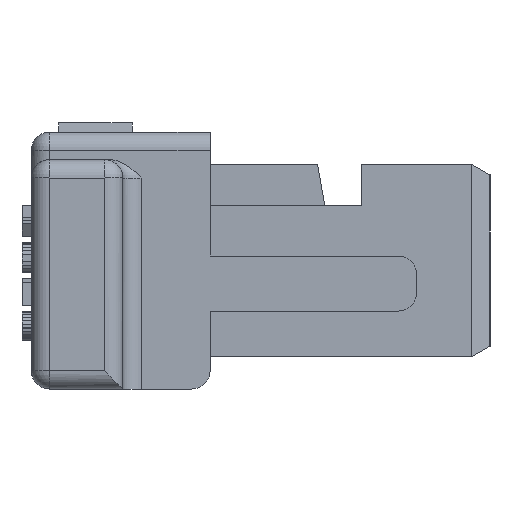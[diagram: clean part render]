
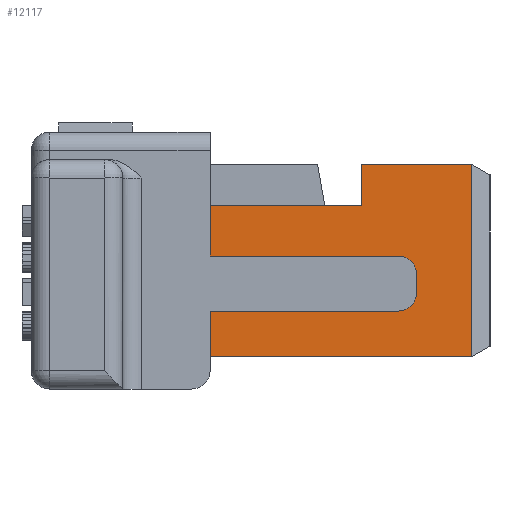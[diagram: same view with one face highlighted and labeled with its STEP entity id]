
A CAD part, left-side view. The second image highlights one B-rep face of the part: STEP entity #12117.
In plain terms, the highlighted planar face has unit normal (-1, 0, 0).
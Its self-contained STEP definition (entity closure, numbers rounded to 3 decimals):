
#1097=DIRECTION('',(0.,0.,1.));
#1098=VECTOR('',#1097,2.1);
#1099=CARTESIAN_POINT('',(1.3,-4.8,-2.45));
#1100=LINE('',#1099,#1098);
#1105=DIRECTION('',(0.,1.,0.));
#1106=VECTOR('',#1105,2.85);
#1107=CARTESIAN_POINT('',(1.3,-4.8,-2.45));
#1108=LINE('',#1107,#1106);
#1109=DIRECTION('',(0.,0.,1.));
#1110=VECTOR('',#1109,0.5);
#1111=CARTESIAN_POINT('',(1.3,-1.95,-2.45));
#1112=LINE('',#1111,#1110);
#1113=DIRECTION('',(0.,-1.,0.));
#1114=VECTOR('',#1113,2.05);
#1115=CARTESIAN_POINT('',(1.3,-1.95,-1.95));
#1116=LINE('',#1115,#1114);
#1117=CARTESIAN_POINT('',(1.3,-4.,-1.75));
#1118=DIRECTION('',(-1.,0.,0.));
#1119=DIRECTION('',(0.,0.,-1.));
#1120=AXIS2_PLACEMENT_3D('',#1117,#1118,#1119);
#1122=DIRECTION('',(0.,0.,1.));
#1123=VECTOR('',#1122,0.2);
#1124=CARTESIAN_POINT('',(1.3,-4.2,-1.75));
#1125=LINE('',#1124,#1123);
#1126=CARTESIAN_POINT('',(1.3,-4.,-1.55));
#1127=DIRECTION('',(-1.,0.,0.));
#1128=DIRECTION('',(0.,-1.,0.));
#1129=AXIS2_PLACEMENT_3D('',#1126,#1127,#1128);
#1131=DIRECTION('',(0.,1.,0.));
#1132=VECTOR('',#1131,2.05);
#1133=CARTESIAN_POINT('',(1.3,-4.,-1.35));
#1134=LINE('',#1133,#1132);
#1135=DIRECTION('',(0.,0.,1.));
#1136=VECTOR('',#1135,0.55);
#1137=CARTESIAN_POINT('',(1.3,-1.95,-1.35));
#1138=LINE('',#1137,#1136);
#1139=DIRECTION('',(0.,0.,1.));
#1140=VECTOR('',#1139,0.45);
#1141=CARTESIAN_POINT('',(1.3,-3.6,-0.8));
#1142=LINE('',#1141,#1140);
#1143=DIRECTION('',(0.,-1.,0.));
#1144=VECTOR('',#1143,1.2);
#1145=CARTESIAN_POINT('',(1.3,-3.6,-0.35));
#1146=LINE('',#1145,#1144);
#1425=DIRECTION('',(0.,1.,0.));
#1426=VECTOR('',#1425,1.65);
#1427=CARTESIAN_POINT('',(1.3,-3.6,-0.8));
#1428=LINE('',#1427,#1426);
#9055=CARTESIAN_POINT('',(1.3,-4.8,-2.45));
#9057=VERTEX_POINT('',#9055);
#9174=CARTESIAN_POINT('',(1.3,-1.95,-2.45));
#9175=VERTEX_POINT('',#9174);
#9180=CARTESIAN_POINT('',(1.3,-4.8,-0.35));
#9181=VERTEX_POINT('',#9180);
#9184=CARTESIAN_POINT('',(1.3,-1.95,-1.95));
#9185=VERTEX_POINT('',#9184);
#9186=CARTESIAN_POINT('',(1.3,-4.,-1.95));
#9187=VERTEX_POINT('',#9186);
#9188=CARTESIAN_POINT('',(1.3,-4.2,-1.75));
#9189=VERTEX_POINT('',#9188);
#9190=CARTESIAN_POINT('',(1.3,-4.2,-1.55));
#9191=VERTEX_POINT('',#9190);
#9192=CARTESIAN_POINT('',(1.3,-4.,-1.35));
#9193=VERTEX_POINT('',#9192);
#9194=CARTESIAN_POINT('',(1.3,-1.95,-1.35));
#9195=VERTEX_POINT('',#9194);
#9196=CARTESIAN_POINT('',(1.3,-1.95,-0.8));
#9197=VERTEX_POINT('',#9196);
#9198=CARTESIAN_POINT('',(1.3,-3.6,-0.8));
#9199=VERTEX_POINT('',#9198);
#9200=CARTESIAN_POINT('',(1.3,-3.6,-0.35));
#9201=VERTEX_POINT('',#9200);
#12088=CARTESIAN_POINT('',(1.3,0.,0.));
#12089=DIRECTION('',(-1.,0.,0.));
#12090=DIRECTION('',(0.,0.,1.));
#12091=AXIS2_PLACEMENT_3D('',#12088,#12089,#12090);
#12092=PLANE('',#12091);
#12093=ORIENTED_EDGE('',*,*,#12078,.F.);
#12094=ORIENTED_EDGE('',*,*,#12053,.T.);
#12096=ORIENTED_EDGE('',*,*,#12095,.T.);
#12098=ORIENTED_EDGE('',*,*,#12097,.T.);
#12100=ORIENTED_EDGE('',*,*,#12099,.T.);
#12102=ORIENTED_EDGE('',*,*,#12101,.T.);
#12104=ORIENTED_EDGE('',*,*,#12103,.T.);
#12106=ORIENTED_EDGE('',*,*,#12105,.T.);
#12108=ORIENTED_EDGE('',*,*,#12107,.T.);
#12110=ORIENTED_EDGE('',*,*,#12109,.F.);
#12112=ORIENTED_EDGE('',*,*,#12111,.T.);
#12114=ORIENTED_EDGE('',*,*,#12113,.T.);
#12115=EDGE_LOOP('',(#12093,#12094,#12096,#12098,#12100,#12102,#12104,#12106,
#12108,#12110,#12112,#12114));
#12116=FACE_OUTER_BOUND('',#12115,.F.);
#12117=ADVANCED_FACE('',(#12116),#12092,.T.);
#1121=CIRCLE('',#1120,0.2);
#1130=CIRCLE('',#1129,0.2);
#12053=EDGE_CURVE('',#9057,#9175,#1108,.T.);
#12078=EDGE_CURVE('',#9057,#9181,#1100,.T.);
#12095=EDGE_CURVE('',#9175,#9185,#1112,.T.);
#12097=EDGE_CURVE('',#9185,#9187,#1116,.T.);
#12099=EDGE_CURVE('',#9187,#9189,#1121,.T.);
#12101=EDGE_CURVE('',#9189,#9191,#1125,.T.);
#12103=EDGE_CURVE('',#9191,#9193,#1130,.T.);
#12105=EDGE_CURVE('',#9193,#9195,#1134,.T.);
#12107=EDGE_CURVE('',#9195,#9197,#1138,.T.);
#12109=EDGE_CURVE('',#9199,#9197,#1428,.T.);
#12111=EDGE_CURVE('',#9199,#9201,#1142,.T.);
#12113=EDGE_CURVE('',#9201,#9181,#1146,.T.);
